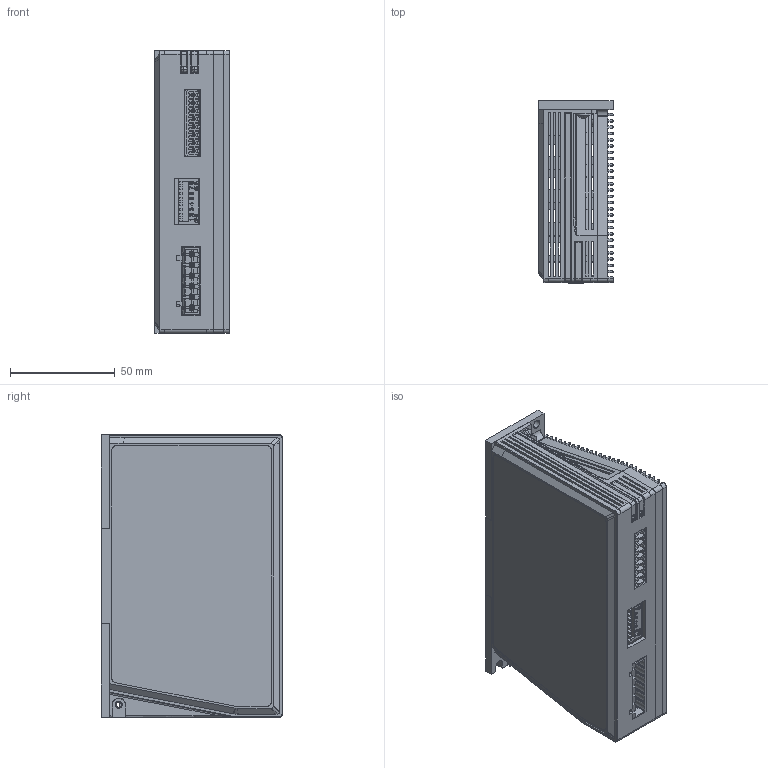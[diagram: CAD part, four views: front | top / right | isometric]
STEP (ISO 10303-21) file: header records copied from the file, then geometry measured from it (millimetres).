
FILE_DESCRIPTION(/* description */ (''),/* implementation_level */ '2;1');
FILE_NAME(/* name */ 'DP3L-808-官网图',/* time_stamp */ '2022-08-30T13:33:07+08:00',/* author */ (''),/* organization */ (''),/* preprocessor_version */ 'ST-DEVELOPER v15',/* originating_system */ '',/* authorisation */ '');
FILE_SCHEMA (('AUTOMOTIVE_DESIGN'));
Products named in the file (1): Document
Bounding box: 35.5 x 86.92 x 135 mm (x, y, z)
Surface area: 117711.9 mm2 (no closed solid volume)
Topology: 0 solids, 3605 shells, 3605 faces, 20811 edges, 20800 vertices
Faces by surface type: plane 3040, bspline 565
Entity records: 197570 total; most frequent: CARTESIAN_POINT 84936, ORIENTED_EDGE 20803, EDGE_CURVE 20803, VERTEX_POINT 20803, B_SPLINE_CURVE_WITH_KNOTS 18897, EDGE_LOOP 3847, PRESENTATION_LAYER_ASSIGNMENT 3605, SHELL_BASED_SURFACE_MODEL 3605
